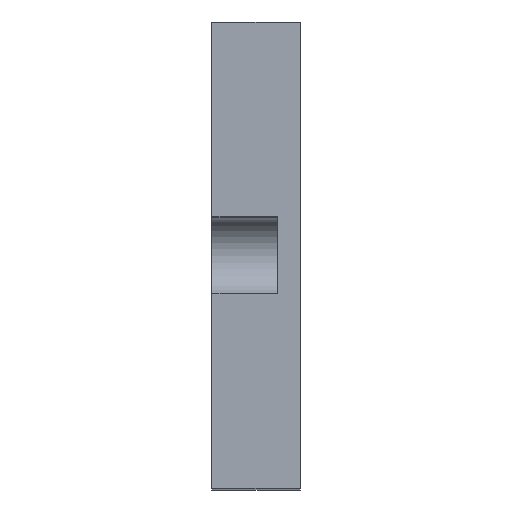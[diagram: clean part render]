
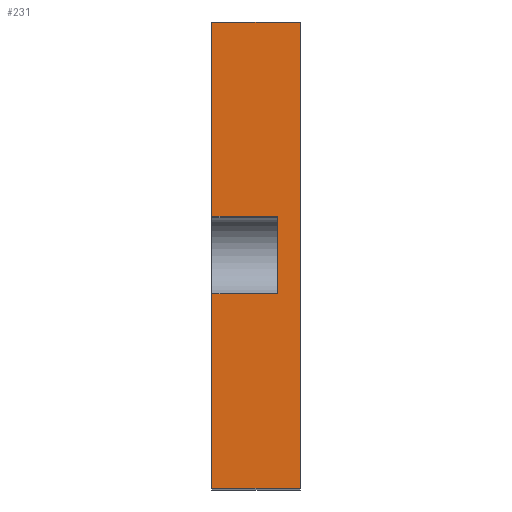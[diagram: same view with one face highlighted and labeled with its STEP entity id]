
A CAD part, top view. The second image highlights one B-rep face of the part: STEP entity #231.
In plain terms, the highlighted planar face has unit normal (0, 0, 1).
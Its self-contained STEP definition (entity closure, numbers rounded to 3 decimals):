
#5 = DIRECTION ( 'NONE',  ( 0., -1., 0. ) ) ;
#33 = EDGE_CURVE ( 'NONE', #1206, #739, #1832, .T. ) ;
#35 = EDGE_CURVE ( 'NONE', #1420, #517, #1524, .T. ) ;
#39 = CARTESIAN_POINT ( 'NONE',  ( -102., -45., 98. ) ) ;
#62 = EDGE_CURVE ( 'NONE', #517, #940, #1274, .T. ) ;
#64 = FACE_OUTER_BOUND ( 'NONE', #681, .T. ) ;
#87 = VERTEX_POINT ( 'NONE', #484 ) ;
#111 = VECTOR ( 'NONE', #1311, 1000. ) ;
#131 = VECTOR ( 'NONE', #1188, 1000. ) ;
#169 = VERTEX_POINT ( 'NONE', #2018 ) ;
#231 = ADVANCED_FACE ( 'NONE', ( #64 ), #685, .T. ) ;
#241 = EDGE_CURVE ( 'NONE', #169, #1206, #514, .T. ) ;
#247 = VECTOR ( 'NONE', #1938, 1000. ) ;
#293 = VECTOR ( 'NONE', #5, 1000. ) ;
#345 = DIRECTION ( 'NONE',  ( 0., 1., 0. ) ) ;
#389 = VECTOR ( 'NONE', #1337, 1000. ) ;
#395 = CARTESIAN_POINT ( 'NONE',  ( -102., 45., 98. ) ) ;
#423 = CARTESIAN_POINT ( 'NONE',  ( -85., 45., 98. ) ) ;
#425 = CARTESIAN_POINT ( 'NONE',  ( -85., -45., 98. ) ) ;
#484 = CARTESIAN_POINT ( 'NONE',  ( -102., -7.5, 98. ) ) ;
#514 = LINE ( 'NONE', #1641, #247 ) ;
#517 = VERTEX_POINT ( 'NONE', #1567 ) ;
#548 = LINE ( 'NONE', #395, #1913 ) ;
#631 = EDGE_CURVE ( 'NONE', #169, #87, #1466, .T. ) ;
#650 = LINE ( 'NONE', #1605, #884 ) ;
#667 = CARTESIAN_POINT ( 'NONE',  ( -102., -45., 98. ) ) ;
#681 = EDGE_LOOP ( 'NONE', ( #1353, #1121, #1137, #1246, #1603, #1925, #1072, #1596 ) ) ;
#685 = PLANE ( 'NONE',  #1757 ) ;
#739 = VERTEX_POINT ( 'NONE', #423 ) ;
#810 = VECTOR ( 'NONE', #345, 1000. ) ;
#855 = DIRECTION ( 'NONE',  ( 1., 0., 0. ) ) ;
#884 = VECTOR ( 'NONE', #982, 1000. ) ;
#940 = VERTEX_POINT ( 'NONE', #1401 ) ;
#950 = EDGE_CURVE ( 'NONE', #1420, #1136, #1597, .T. ) ;
#982 = DIRECTION ( 'NONE',  ( -1., 0., 0. ) ) ;
#996 = CARTESIAN_POINT ( 'NONE',  ( -102., 45., 98. ) ) ;
#1035 = DIRECTION ( 'NONE',  ( 1., 0., 0. ) ) ;
#1052 = CARTESIAN_POINT ( 'NONE',  ( -102., 7.5, 98. ) ) ;
#1072 = ORIENTED_EDGE ( 'NONE', *, *, #1657, .F. ) ;
#1088 = CARTESIAN_POINT ( 'NONE',  ( -89.4, -22.5, 98. ) ) ;
#1121 = ORIENTED_EDGE ( 'NONE', *, *, #62, .T. ) ;
#1136 = VERTEX_POINT ( 'NONE', #996 ) ;
#1137 = ORIENTED_EDGE ( 'NONE', *, *, #1962, .T. ) ;
#1188 = DIRECTION ( 'NONE',  ( 1., 0., 0. ) ) ;
#1206 = VERTEX_POINT ( 'NONE', #2011 ) ;
#1246 = ORIENTED_EDGE ( 'NONE', *, *, #631, .F. ) ;
#1274 = LINE ( 'NONE', #1088, #293 ) ;
#1296 = DIRECTION ( 'NONE',  ( 0., 0., 1. ) ) ;
#1311 = DIRECTION ( 'NONE',  ( 0., 1., 0. ) ) ;
#1337 = DIRECTION ( 'NONE',  ( 0., 1., 0. ) ) ;
#1353 = ORIENTED_EDGE ( 'NONE', *, *, #35, .T. ) ;
#1401 = CARTESIAN_POINT ( 'NONE',  ( -89.4, -7.5, 98. ) ) ;
#1420 = VERTEX_POINT ( 'NONE', #1492 ) ;
#1466 = LINE ( 'NONE', #39, #111 ) ;
#1492 = CARTESIAN_POINT ( 'NONE',  ( -102., 7.5, 98. ) ) ;
#1524 = LINE ( 'NONE', #1052, #131 ) ;
#1567 = CARTESIAN_POINT ( 'NONE',  ( -89.4, 7.5, 98. ) ) ;
#1596 = ORIENTED_EDGE ( 'NONE', *, *, #950, .F. ) ;
#1597 = LINE ( 'NONE', #1917, #810 ) ;
#1603 = ORIENTED_EDGE ( 'NONE', *, *, #241, .T. ) ;
#1605 = CARTESIAN_POINT ( 'NONE',  ( -102., -7.5, 98. ) ) ;
#1641 = CARTESIAN_POINT ( 'NONE',  ( -102., -45., 98. ) ) ;
#1657 = EDGE_CURVE ( 'NONE', #1136, #739, #548, .T. ) ;
#1757 = AXIS2_PLACEMENT_3D ( 'NONE', #667, #1296, #855 ) ;
#1832 = LINE ( 'NONE', #425, #389 ) ;
#1913 = VECTOR ( 'NONE', #1035, 1000. ) ;
#1917 = CARTESIAN_POINT ( 'NONE',  ( -102., -45., 98. ) ) ;
#1925 = ORIENTED_EDGE ( 'NONE', *, *, #33, .T. ) ;
#1938 = DIRECTION ( 'NONE',  ( 1., 0., 0. ) ) ;
#1962 = EDGE_CURVE ( 'NONE', #940, #87, #650, .T. ) ;
#2011 = CARTESIAN_POINT ( 'NONE',  ( -85., -45., 98. ) ) ;
#2018 = CARTESIAN_POINT ( 'NONE',  ( -102., -45., 98. ) ) ;
